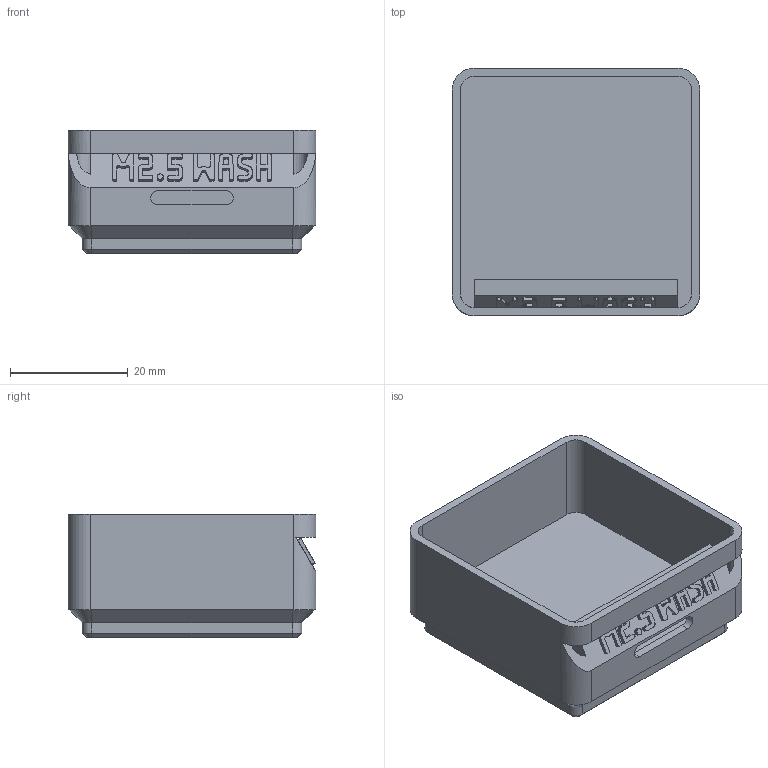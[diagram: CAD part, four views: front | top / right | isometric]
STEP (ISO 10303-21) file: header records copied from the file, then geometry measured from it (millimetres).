
FILE_DESCRIPTION(('Open CASCADE Model'),'2;1');
FILE_NAME('Open CASCADE Shape Model','2026-11-03T17:13:29',('Author'),( 'Open CASCADE'),'Open CASCADE STEP processor 8.0','build123d', 'Unknown');
FILE_SCHEMA(('AUTOMOTIVE_DESIGN { 1 0 10303 214 1 1 1 1 }'));
Products named in the file (1): COMPOUND
Bounding box: 42 x 42 x 21 mm (x, y, z)
Volume: 12859.2 mm3; surface area: 9319.9 mm2
Topology: 1 solids, 1 shells, 799 faces, 2346 edges, 1558 vertices
Faces by surface type: plane 777, cylinder 14, cone 8
Entity records: 54992 total; most frequent: CARTESIAN_POINT 11048, DIRECTION 7098, LINE 5382, VECTOR 5382, ORIENTED_EDGE 4692, PCURVE 4692, DEFINITIONAL_REPRESENTATION 4692, EDGE_CURVE 2346
